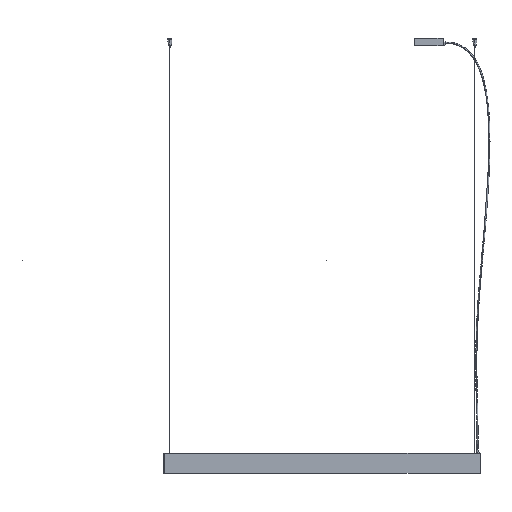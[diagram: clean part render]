
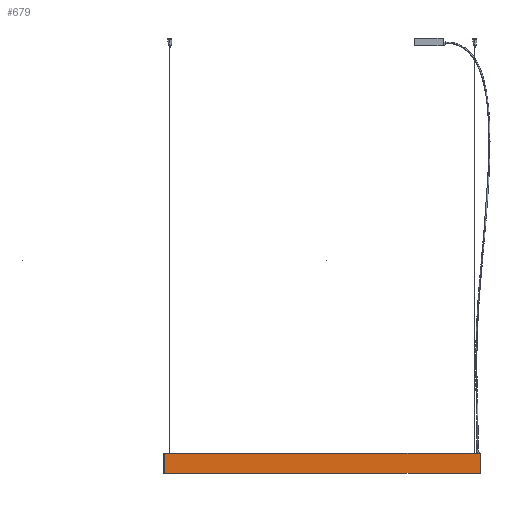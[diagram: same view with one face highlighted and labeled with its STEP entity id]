
A CAD part, left-side view. The second image highlights one B-rep face of the part: STEP entity #679.
In plain terms, the highlighted planar face has unit normal (-1, 0, 0).
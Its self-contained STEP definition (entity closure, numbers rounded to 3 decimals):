
#679=ADVANCED_FACE('',(#1637),#14963,.T.);
#1637=FACE_OUTER_BOUND('',#2595,.T.);
#2595=EDGE_LOOP('',(#5037,#5038,#5039,#5040));
#5037=ORIENTED_EDGE('',*,*,#8923,.F.);
#5038=ORIENTED_EDGE('',*,*,#9214,.F.);
#5039=ORIENTED_EDGE('',*,*,#9212,.F.);
#5040=ORIENTED_EDGE('',*,*,#9215,.T.);
#8923=EDGE_CURVE('',#13660,#13657,#11203,.T.);
#9212=EDGE_CURVE('',#13851,#13852,#11425,.T.);
#9214=EDGE_CURVE('',#13852,#13660,#11426,.T.);
#9215=EDGE_CURVE('',#13851,#13657,#11427,.T.);
#11203=B_SPLINE_CURVE_WITH_KNOTS('',1,(#22210,#22211),.UNSPECIFIED.,.F.,
 .F.,(2,2),(0.,1515.),.UNSPECIFIED.);
#11425=B_SPLINE_CURVE_WITH_KNOTS('',1,(#22883,#22884),.UNSPECIFIED.,.F.,
 .F.,(2,2),(0.,1515.),.UNSPECIFIED.);
#11426=B_SPLINE_CURVE_WITH_KNOTS('',1,(#22888,#22889),.UNSPECIFIED.,.F.,
 .F.,(2,2),(0.,96.4),.UNSPECIFIED.);
#11427=B_SPLINE_CURVE_WITH_KNOTS('',1,(#22890,#22891),.UNSPECIFIED.,.F.,
 .F.,(2,2),(-96.4,0.),.UNSPECIFIED.);
#13657=VERTEX_POINT('',#21996);
#13660=VERTEX_POINT('',#21999);
#13851=VERTEX_POINT('',#22190);
#13852=VERTEX_POINT('',#22191);
#14963=PLANE('',#16267);
#16267=AXIS2_PLACEMENT_3D('',#21989,#16834,$);
#16834=DIRECTION('',(-1.,0.,0.));
#21989=CARTESIAN_POINT('',(0.,-57.84,909.));
#21996=CARTESIAN_POINT('',(0.,-48.2,-757.5));
#21999=CARTESIAN_POINT('',(0.,-48.2,757.5));
#22190=CARTESIAN_POINT('',(0.,48.2,-757.5));
#22191=CARTESIAN_POINT('',(0.,48.2,757.5));
#22210=CARTESIAN_POINT('',(0.,-48.2,757.5));
#22211=CARTESIAN_POINT('',(0.,-48.2,-757.5));
#22883=CARTESIAN_POINT('',(0.,48.2,-757.5));
#22884=CARTESIAN_POINT('',(0.,48.2,757.5));
#22888=CARTESIAN_POINT('',(0.,48.2,757.5));
#22889=CARTESIAN_POINT('',(0.,-48.2,757.5));
#22890=CARTESIAN_POINT('',(0.,48.2,-757.5));
#22891=CARTESIAN_POINT('',(0.,-48.2,-757.5));
